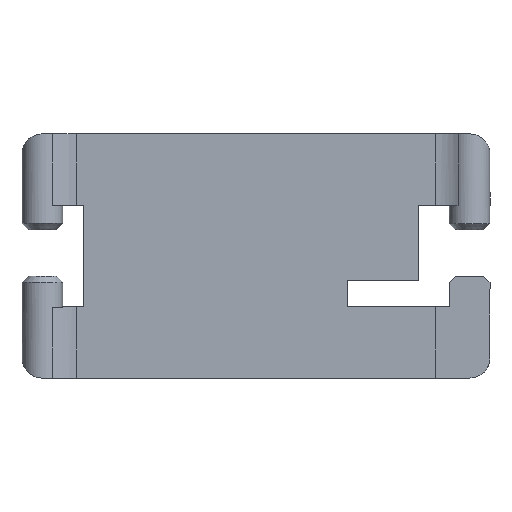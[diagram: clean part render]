
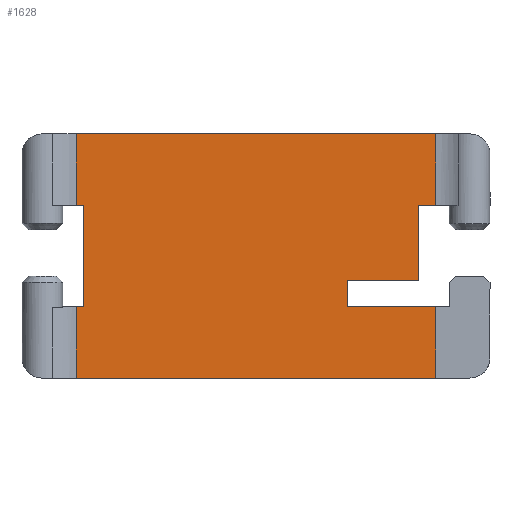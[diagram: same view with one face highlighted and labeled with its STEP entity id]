
A CAD part, front view. The second image highlights one B-rep face of the part: STEP entity #1628.
In plain terms, the highlighted planar face has unit normal (0, -1, 0).
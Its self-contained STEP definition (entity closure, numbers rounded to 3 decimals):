
#298=CARTESIAN_POINT('',(-41.33,-0.5,8.5));
#299=VERTEX_POINT('',#298);
#307=CARTESIAN_POINT('',(-41.33,-0.5,12.));
#308=VERTEX_POINT('',#307);
#309=CARTESIAN_POINT('',(-41.33,-0.5,8.5));
#310=DIRECTION('',(0.0,0.0,1.0));
#311=VECTOR('',#310,3.5);
#312=LINE('',#309,#311);
#313=EDGE_CURVE('',#299,#308,#312,.T.);
#512=CARTESIAN_POINT('',(-41.,-0.5,8.5));
#513=VERTEX_POINT('',#512);
#520=CARTESIAN_POINT('',(-41.33,-0.5,8.5));
#521=DIRECTION('',(1.0,0.0,0.0));
#522=VECTOR('',#521,0.33);
#523=LINE('',#520,#522);
#524=EDGE_CURVE('',#299,#513,#523,.T.);
#538=CARTESIAN_POINT('',(-41.,-0.5,3.5));
#539=VERTEX_POINT('',#538);
#540=CARTESIAN_POINT('',(-41.,-0.5,8.5));
#541=DIRECTION('',(0.0,0.0,-1.0));
#542=VECTOR('',#541,5.);
#543=LINE('',#540,#542);
#544=EDGE_CURVE('',#513,#539,#543,.T.);
#578=CARTESIAN_POINT('',(-41.33,-0.5,3.5));
#579=VERTEX_POINT('',#578);
#587=CARTESIAN_POINT('',(-41.,-0.5,3.5));
#588=DIRECTION('',(-1.0,0.0,0.0));
#589=VECTOR('',#588,0.33);
#590=LINE('',#587,#589);
#591=EDGE_CURVE('',#539,#579,#590,.T.);
#716=CARTESIAN_POINT('',(-23.658,-0.5,0.0));
#717=VERTEX_POINT('',#716);
#718=CARTESIAN_POINT('',(-23.658,-0.5,3.5));
#719=VERTEX_POINT('',#718);
#720=CARTESIAN_POINT('',(-23.658,-0.5,0.0));
#721=DIRECTION('',(0.0,0.0,1.0));
#722=VECTOR('',#721,3.5);
#723=LINE('',#720,#722);
#724=EDGE_CURVE('',#717,#719,#723,.T.);
#796=CARTESIAN_POINT('',(-41.33,-0.5,0.0));
#797=VERTEX_POINT('',#796);
#798=CARTESIAN_POINT('',(-23.658,-0.5,0.0));
#799=DIRECTION('',(-1.0,0.0,0.0));
#800=VECTOR('',#799,17.672);
#801=LINE('',#798,#800);
#802=EDGE_CURVE('',#717,#797,#801,.T.);
#920=CARTESIAN_POINT('',(-24.5,-0.5,8.5));
#921=VERTEX_POINT('',#920);
#928=CARTESIAN_POINT('',(-24.5,-0.5,4.8));
#929=VERTEX_POINT('',#928);
#930=CARTESIAN_POINT('',(-24.5,-0.5,4.8));
#931=DIRECTION('',(0.0,0.0,1.0));
#932=VECTOR('',#931,3.7);
#933=LINE('',#930,#932);
#934=EDGE_CURVE('',#929,#921,#933,.T.);
#1339=CARTESIAN_POINT('',(-23.658,-0.5,8.5));
#1340=VERTEX_POINT('',#1339);
#1341=CARTESIAN_POINT('',(-24.5,-0.5,8.5));
#1342=DIRECTION('',(1.0,0.0,0.0));
#1343=VECTOR('',#1342,0.842);
#1344=LINE('',#1341,#1343);
#1345=EDGE_CURVE('',#921,#1340,#1344,.T.);
#1369=CARTESIAN_POINT('',(-28.,-0.5,4.8));
#1370=VERTEX_POINT('',#1369);
#1371=CARTESIAN_POINT('',(-28.,-0.5,4.8));
#1372=DIRECTION('',(1.0,0.0,0.0));
#1373=VECTOR('',#1372,3.5);
#1374=LINE('',#1371,#1373);
#1375=EDGE_CURVE('',#1370,#929,#1374,.T.);
#1403=CARTESIAN_POINT('',(-28.,-0.5,3.5));
#1404=VERTEX_POINT('',#1403);
#1411=CARTESIAN_POINT('',(-23.658,-0.5,3.5));
#1412=DIRECTION('',(-1.0,0.0,0.0));
#1413=VECTOR('',#1412,4.342);
#1414=LINE('',#1411,#1413);
#1415=EDGE_CURVE('',#719,#1404,#1414,.T.);
#1426=CARTESIAN_POINT('',(-28.,-0.5,3.5));
#1427=DIRECTION('',(0.0,0.0,1.0));
#1428=VECTOR('',#1427,1.3);
#1429=LINE('',#1426,#1428);
#1430=EDGE_CURVE('',#1404,#1370,#1429,.T.);
#1445=CARTESIAN_POINT('',(-23.658,-0.5,12.));
#1446=VERTEX_POINT('',#1445);
#1454=CARTESIAN_POINT('',(-23.658,-0.5,8.5));
#1455=DIRECTION('',(0.0,0.0,1.0));
#1456=VECTOR('',#1455,3.5);
#1457=LINE('',#1454,#1456);
#1458=EDGE_CURVE('',#1340,#1446,#1457,.T.);
#1578=CARTESIAN_POINT('',(-23.658,-0.5,12.));
#1579=DIRECTION('',(-1.0,0.0,0.0));
#1580=VECTOR('',#1579,17.672);
#1581=LINE('',#1578,#1580);
#1582=EDGE_CURVE('',#1446,#308,#1581,.T.);
#1602=CARTESIAN_POINT('',(-23.658,-0.5,0.0));
#1603=DIRECTION('',(0.0,-1.0,0.0));
#1604=DIRECTION('',(0.0,0.0,-1.0));
#1605=AXIS2_PLACEMENT_3D('',#1602,#1603,#1604);
#1606=PLANE('',#1605);
#1607=ORIENTED_EDGE('',*,*,#591,.T.);
#1608=CARTESIAN_POINT('',(-41.33,-0.5,0.0));
#1609=DIRECTION('',(0.0,0.0,1.0));
#1610=VECTOR('',#1609,3.5);
#1611=LINE('',#1608,#1610);
#1612=EDGE_CURVE('',#797,#579,#1611,.T.);
#1613=ORIENTED_EDGE('',*,*,#1612,.F.);
#1614=ORIENTED_EDGE('',*,*,#802,.F.);
#1615=ORIENTED_EDGE('',*,*,#724,.T.);
#1616=ORIENTED_EDGE('',*,*,#1415,.T.);
#1617=ORIENTED_EDGE('',*,*,#1430,.T.);
#1618=ORIENTED_EDGE('',*,*,#1375,.T.);
#1619=ORIENTED_EDGE('',*,*,#934,.T.);
#1620=ORIENTED_EDGE('',*,*,#1345,.T.);
#1621=ORIENTED_EDGE('',*,*,#1458,.T.);
#1622=ORIENTED_EDGE('',*,*,#1582,.T.);
#1623=ORIENTED_EDGE('',*,*,#313,.F.);
#1624=ORIENTED_EDGE('',*,*,#524,.T.);
#1625=ORIENTED_EDGE('',*,*,#544,.T.);
#1626=EDGE_LOOP('',(#1607,#1613,#1614,#1615,#1616,#1617,#1618,#1619,#1620,#1621,#1622,#1623,#1624,#1625));
#1627=FACE_OUTER_BOUND('',#1626,.T.);
#1628=ADVANCED_FACE('',(#1627),#1606,.T.);
